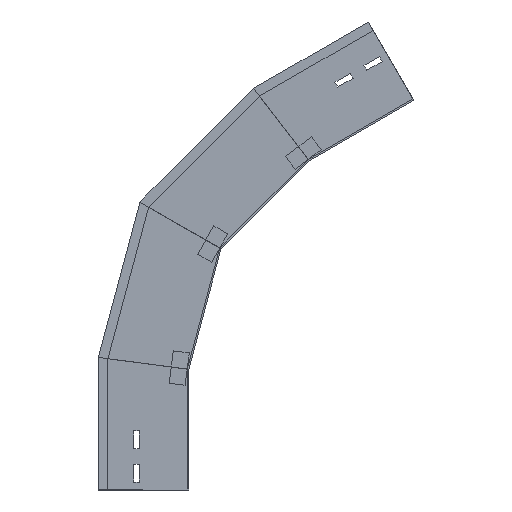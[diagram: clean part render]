
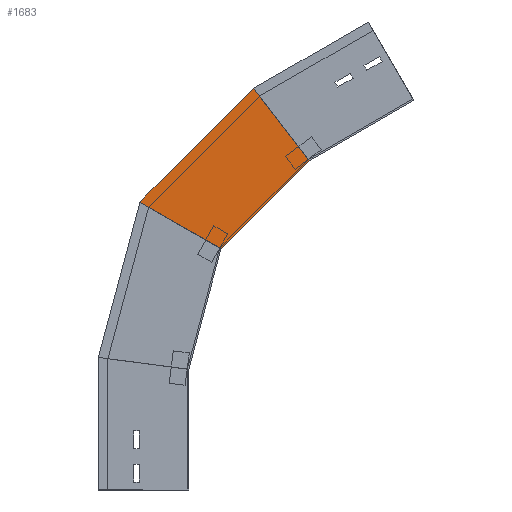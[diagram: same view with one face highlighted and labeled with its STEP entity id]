
A CAD part, left-side view. The second image highlights one B-rep face of the part: STEP entity #1683.
In plain terms, the highlighted planar face has unit normal (-1, 0, 0) as drawn and (1, 0, 0) by its records, which use the part's own axes.
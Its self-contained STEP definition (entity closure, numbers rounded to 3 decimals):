
#18 = LINE ( 'NONE', #117, #122 ) ;
#54 = ORIENTED_EDGE ( 'NONE', *, *, #1414, .T. ) ;
#58 = DIRECTION ( 'NONE',  ( 0., -0.259, 0.966 ) ) ;
#62 = EDGE_LOOP ( 'NONE', ( #54, #658, #473, #486 ) ) ;
#117 = CARTESIAN_POINT ( 'NONE',  ( 0., 112.909, 163.284 ) ) ;
#122 = VECTOR ( 'NONE', #1024, 1000. ) ;
#173 = DIRECTION ( 'NONE',  ( 0., -0.991, -0.131 ) ) ;
#194 = CARTESIAN_POINT ( 'NONE',  ( 0., -78.533, 277.539 ) ) ;
#208 = VECTOR ( 'NONE', #58, 1000. ) ;
#237 = EDGE_CURVE ( 'NONE', #565, #1418, #339, .T. ) ;
#327 = CARTESIAN_POINT ( 'NONE',  ( 0., 4.243, 134.167 ) ) ;
#332 = VERTEX_POINT ( 'NONE', #959 ) ;
#339 = LINE ( 'NONE', #194, #474 ) ;
#391 = CARTESIAN_POINT ( 'NONE',  ( 0., 112.5, 164.811 ) ) ;
#473 = ORIENTED_EDGE ( 'NONE', *, *, #766, .F. ) ;
#474 = VECTOR ( 'NONE', #1209, 1000. ) ;
#486 = ORIENTED_EDGE ( 'NONE', *, *, #1150, .F. ) ;
#565 = VERTEX_POINT ( 'NONE', #1593 ) ;
#632 = FACE_OUTER_BOUND ( 'NONE', #62, .T. ) ;
#658 = ORIENTED_EDGE ( 'NONE', *, *, #237, .T. ) ;
#728 = CARTESIAN_POINT ( 'NONE',  ( 0., 4.243, 134.167 ) ) ;
#766 = EDGE_CURVE ( 'NONE', #332, #1418, #1208, .T. ) ;
#847 = CARTESIAN_POINT ( 'NONE',  ( 0., -19.411, 147.444 ) ) ;
#959 = CARTESIAN_POINT ( 'NONE',  ( 0., 0., 150. ) ) ;
#970 = PLANE ( 'NONE',  #1140 ) ;
#1024 = DIRECTION ( 'NONE',  ( 0., -0.259, 0.966 ) ) ;
#1053 = VERTEX_POINT ( 'NONE', #391 ) ;
#1108 = DIRECTION ( 'NONE',  ( 0., 0., -1. ) ) ;
#1140 = AXIS2_PLACEMENT_3D ( 'NONE', #728, #1665, #1108 ) ;
#1150 = EDGE_CURVE ( 'NONE', #1053, #332, #1340, .T. ) ;
#1208 = LINE ( 'NONE', #327, #208 ) ;
#1209 = DIRECTION ( 'NONE',  ( 0., -0.866, -0.5 ) ) ;
#1294 = CARTESIAN_POINT ( 'NONE',  ( 0., -40.117, 299.719 ) ) ;
#1340 = LINE ( 'NONE', #847, #1594 ) ;
#1414 = EDGE_CURVE ( 'NONE', #1053, #565, #18, .T. ) ;
#1418 = VERTEX_POINT ( 'NONE', #1294 ) ;
#1593 = CARTESIAN_POINT ( 'NONE',  ( 0., 60.748, 357.953 ) ) ;
#1594 = VECTOR ( 'NONE', #173, 1000. ) ;
#1665 = DIRECTION ( 'NONE',  ( 1., 0., 0. ) ) ;
#1683 = ADVANCED_FACE ( 'NONE', ( #632 ), #970, .T. ) ;
